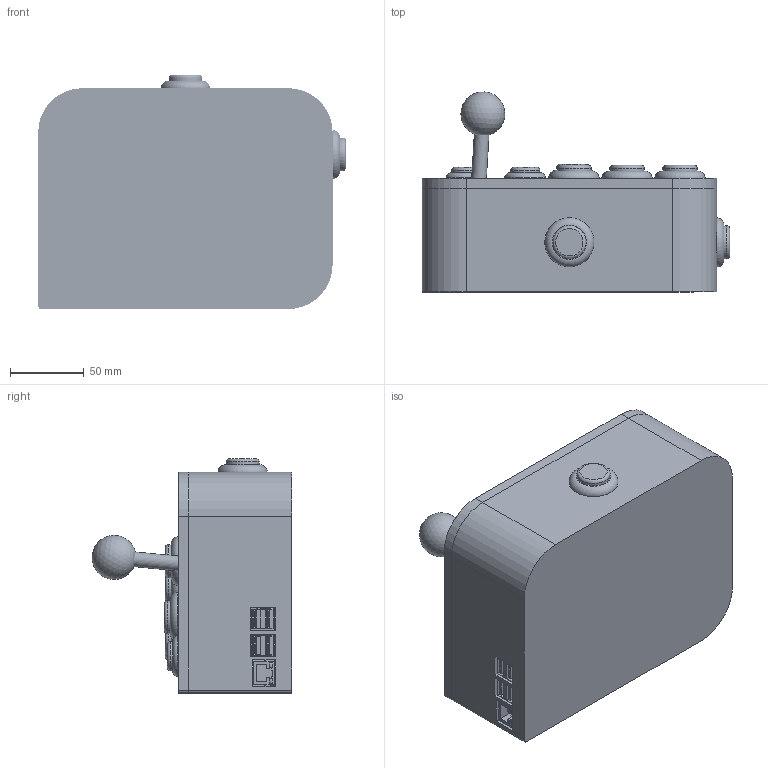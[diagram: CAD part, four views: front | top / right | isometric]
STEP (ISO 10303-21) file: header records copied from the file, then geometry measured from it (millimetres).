
FILE_DESCRIPTION(/* description */ (''),/* implementation_level */ '2;1');
FILE_NAME(/* name */ 'C:/Users/smnoh/Google Drive/Documents/Upper Peninsula Plastics/Thingiverse/Joystick Controller/Player 1 Joystick Controller.step',/* time_stamp */ '2018-01-26T20:12:11-06:00',/* author */ ('smnoha@mtu.edu'),/* organization */ (''),/* preprocessor_version */ 'ST-DEVELOPER v16.13',/* originating_system */ 'Autodesk Translation Framework v6.5.0.72',/* authorisation */ '');
FILE_SCHEMA (('AUTOMOTIVE_DESIGN { 1 0 10303 214 3 1 1 }'));
Products named in the file (27): Joystick Controller Built In Raspberry PI; RASPBERRY PI 3 v1; Case Top; Case Bottom; 30mm Button; jlf-tp-8yt-w_asm v1; SANWA_JOYSTICK_3; SSANWA_JOYSTICK_6; SANWA_JOYSTICK_2; SANWA_JOYSTICK_5; GT-Y; SANWA_JOYSTICK_0; BALL; DUSTER; E; M4 Nut v1 (2); M4x8 v1 (3); M4x8 v1 (2); M4x8 v1 (1); M4x8 v1; M4 Nut v1 (1); M4 Nut v1; M4 Nut v1 (3); Small Button; M2.5 v1; Zero Delay PCB; M3x6 v1
Assembly tree (40 placements, depth 3):
  Joystick Controller Built In Raspberry PI
    RASPBERRY PI 3 v1
    Case Top
    Case Bottom
    30mm Button  x8
    jlf-tp-8yt-w_asm v1
      SANWA_JOYSTICK_3
      SSANWA_JOYSTICK_6
      SANWA_JOYSTICK_2
      SANWA_JOYSTICK_5
      GT-Y
      SANWA_JOYSTICK_0
      BALL
      DUSTER
      E
    M4 Nut v1 (2)
    M4x8 v1 (3)
    M4x8 v1 (2)
    M4x8 v1 (1)
    M4x8 v1
    M4 Nut v1 (1)
    M4 Nut v1
    M4 Nut v1 (3)
    Small Button  x2
    M2.5 v1  x4
    Zero Delay PCB
    M3x6 v1  x4
Bounding box: 209 x 135.71 x 159 mm (x, y, z)
Volume: 684502.8 mm3; surface area: 367967.4 mm2
Topology: 39 solids, 43 shells, 2510 faces, 6351 edges, 4118 vertices
Faces by surface type: plane 1472, cylinder 740, cone 173, torus 64, bspline 38, sphere 23
Full cylindrical faces by diameter (mm): 0.648 x13, 1.915 x48, 2.3 x4, 2.35 x44, 2.5 x48, 2.592 x16, 2.75 x4, 2.8 x4, 3 x50, 3.091 x48, 3.6 x1, 4 x56, 4.5 x4, 5.5 x10, 5.95 x1, 6 x4, 6.2 x12, 7 x5, 7.2 x4, 7.95 x1, 8 x6, 10 x3, 15 x1, 19.7 x2, 21 x1, 21.755 x2, 22.5 x8, 23.755 x2, 24 x2, 25 x8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
Entity records: 82249 total; most frequent: CARTESIAN_POINT 29411, ORIENTED_EDGE 10896, DIRECTION 10398, EDGE_CURVE 5448, LINE 3680, VECTOR 3680, VERTEX_POINT 3528, AXIS2_PLACEMENT_3D 3359
